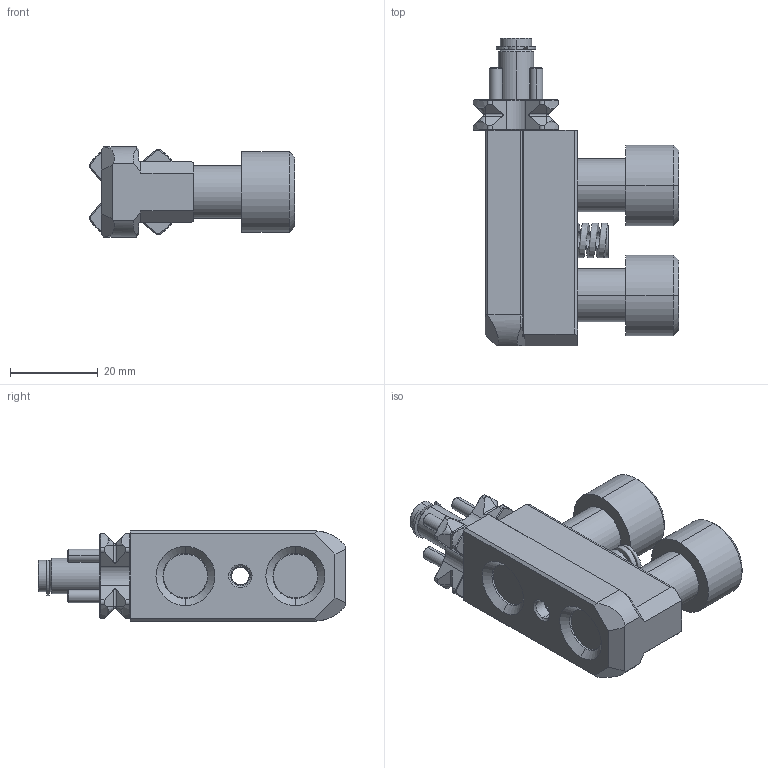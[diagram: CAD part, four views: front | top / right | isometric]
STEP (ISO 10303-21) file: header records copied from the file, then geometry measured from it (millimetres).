
FILE_DESCRIPTION (( 'STEP AP214' ), '1' );
FILE_NAME ('DHP-61P861977.STEP', '2023-10-06T05:32:07', ( '' ), ( '' ), 'SwSTEP 2.0', 'SolidWorks 2022', '' );
FILE_SCHEMA (( 'AUTOMOTIVE_DESIGN' ));
Length unit declared in the file: millimetre
Products named in the file (7): DHP-61P494469; DHP-61P861977; 0080010316; 0286010004; 068AAA0386_自由長_25mm_(k=17.2N／mm); 0030112030; DHP-61P295011
Assembly tree (10 placements, depth 2):
  DHP-61P861977
    DHP-61P295011
    DHP-61P494469
    0030112030  x2
    068AAA0386_自由長_25mm_(k=17.2N／mm)
    0080010316  x4
    0286010004
Bounding box: 46.64 x 70 x 20.5 mm (x, y, z)
Volume: 26823.2 mm3; surface area: 15005.3 mm2
Topology: 10 solids, 10 shells, 392 faces, 963 edges, 577 vertices
Faces by surface type: cone 148, plane 130, cylinder 96, torus 12, bspline 6
Entity records: 20560 total; most frequent: CARTESIAN_POINT 12599, DIRECTION 1539, ORIENTED_EDGE 1506, EDGE_CURVE 753, AXIS2_PLACEMENT_3D 577, VERTEX_POINT 462, LINE 385, VECTOR 385
